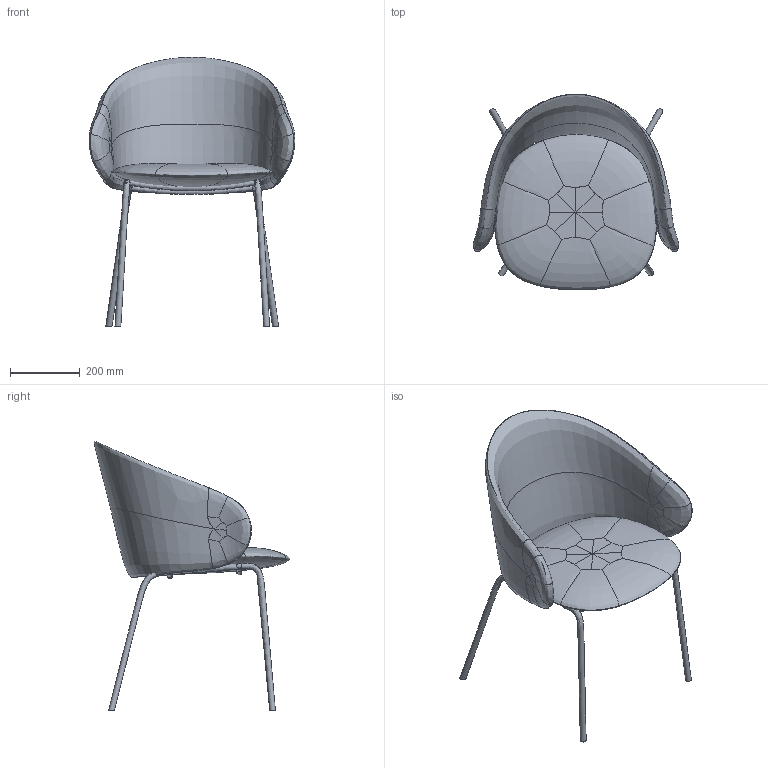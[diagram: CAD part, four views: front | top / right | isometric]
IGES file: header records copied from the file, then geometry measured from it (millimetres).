
Start section:  Autodesk Maya version 2019 IGES version 5.3  Autodesk Maya version 2019 IGES version 5.3
Global section: file name: C:\Users\Workstation2\Desktop\ARM_4_LEGS.igs; native system: Rhinoceros ( Mar 28 2013 ); preprocessor: Trout Lake IGES 012 Mar 28 2013; date: 200225.104637; units: millimetre
Bounding box: 589.39 x 560.34 x 771.54 mm (x, y, z)
Surface area: 1179592.3 mm2 (no closed solid volume)
Topology: 0 solids, 0 shells, 56 faces, 220 edges, 216 vertices
Faces by surface type: bspline 56
